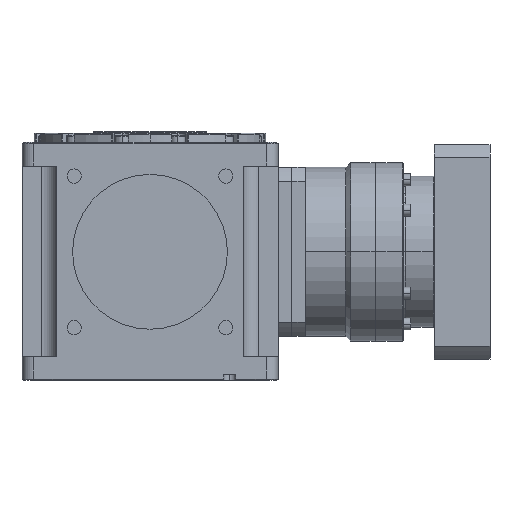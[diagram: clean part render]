
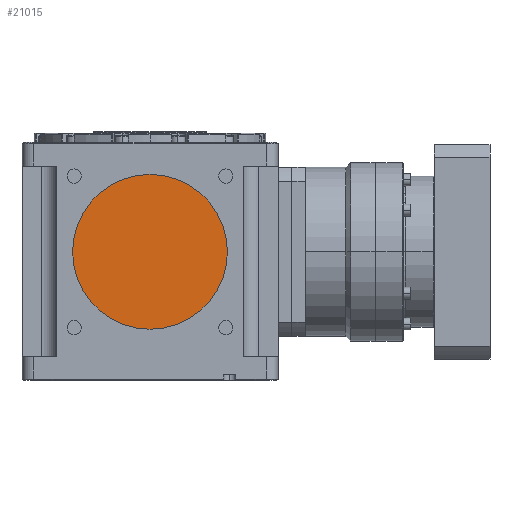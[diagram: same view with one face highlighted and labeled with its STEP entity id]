
A CAD part, left-side view. The second image highlights one B-rep face of the part: STEP entity #21015.
In plain terms, the highlighted planar face has unit normal (-1, 0, 0).
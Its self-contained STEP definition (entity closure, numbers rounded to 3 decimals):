
#1881 = ORIENTED_EDGE ( 'NONE', *, *, #18267, .T. ) ;
#2174 = ORIENTED_EDGE ( 'NONE', *, *, #15339, .T. ) ;
#2638 = VERTEX_POINT ( 'NONE', #10816 ) ;
#3589 = CIRCLE ( 'NONE', #4714, 65. ) ;
#3854 = DIRECTION ( 'NONE',  ( -1., 0., 0. ) ) ;
#4714 = AXIS2_PLACEMENT_3D ( 'NONE', #22662, #8290, #17061 ) ;
#5308 = AXIS2_PLACEMENT_3D ( 'NONE', #12962, #3854, #5706 ) ;
#5595 = PLANE ( 'NONE',  #5308 ) ;
#5706 = DIRECTION ( 'NONE',  ( 0., -1., 0. ) ) ;
#7216 = CARTESIAN_POINT ( 'NONE',  ( -102.5, -65., 0. ) ) ;
#7459 = FACE_OUTER_BOUND ( 'NONE', #20470, .T. ) ;
#8290 = DIRECTION ( 'NONE',  ( -1., 0., 0. ) ) ;
#9659 = CARTESIAN_POINT ( 'NONE',  ( -102.5, 0., 0. ) ) ;
#10816 = CARTESIAN_POINT ( 'NONE',  ( -102.5, 65., 0. ) ) ;
#12962 = CARTESIAN_POINT ( 'NONE',  ( -102.5, 0., 0. ) ) ;
#15339 = EDGE_CURVE ( 'NONE', #2638, #20904, #3589, .T. ) ;
#16697 = CIRCLE ( 'NONE', #21917, 65. ) ;
#17061 = DIRECTION ( 'NONE',  ( 0., -1., 0. ) ) ;
#18050 = DIRECTION ( 'NONE',  ( -1., 0., 0. ) ) ;
#18267 = EDGE_CURVE ( 'NONE', #20904, #2638, #16697, .T. ) ;
#20470 = EDGE_LOOP ( 'NONE', ( #1881, #2174 ) ) ;
#20904 = VERTEX_POINT ( 'NONE', #7216 ) ;
#21015 = ADVANCED_FACE ( 'NONE', ( #7459 ), #5595, .T. ) ;
#21917 = AXIS2_PLACEMENT_3D ( 'NONE', #9659, #18050, #22040 ) ;
#22040 = DIRECTION ( 'NONE',  ( 0., -1., 0. ) ) ;
#22662 = CARTESIAN_POINT ( 'NONE',  ( -102.5, 0., 0. ) ) ;
